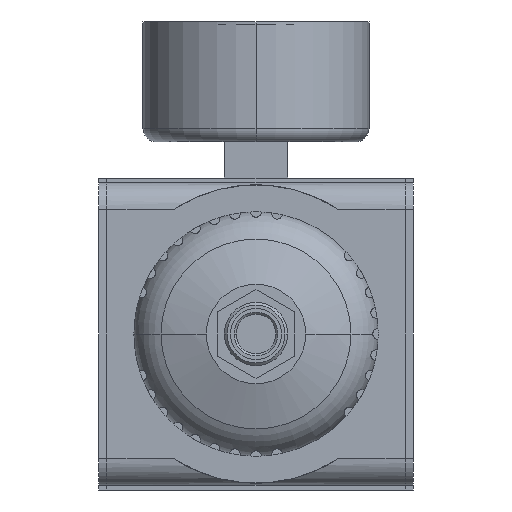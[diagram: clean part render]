
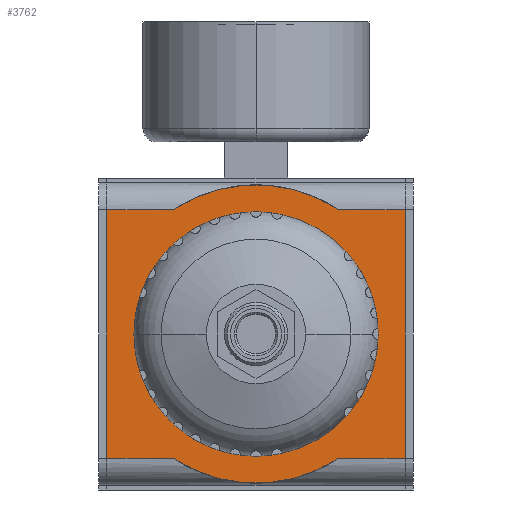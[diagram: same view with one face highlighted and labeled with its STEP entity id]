
A CAD part, front view. The second image highlights one B-rep face of the part: STEP entity #3762.
In plain terms, the highlighted planar face has unit normal (0, -1, 0).
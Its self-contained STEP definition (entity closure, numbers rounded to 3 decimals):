
#65=DIRECTION('',(0.,0.,-1.));
#66=VECTOR('',#65,55.);
#67=CARTESIAN_POINT('',(-33.,0.,27.5));
#68=LINE('',#67,#66);
#339=DIRECTION('',(0.,0.,-1.));
#340=VECTOR('',#339,55.);
#341=CARTESIAN_POINT('',(33.,0.,27.5));
#342=LINE('',#341,#340);
#1001=DIRECTION('',(1.,0.,0.));
#1002=VECTOR('',#1001,14.759);
#1003=CARTESIAN_POINT('',(-33.,0.,27.5));
#1004=LINE('',#1003,#1002);
#1005=DIRECTION('',(1.,0.,0.));
#1006=VECTOR('',#1005,14.759);
#1007=CARTESIAN_POINT('',(18.241,0.,27.5));
#1008=LINE('',#1007,#1006);
#1009=DIRECTION('',(1.,0.,0.));
#1010=VECTOR('',#1009,14.759);
#1011=CARTESIAN_POINT('',(-33.,0.,-27.5));
#1012=LINE('',#1011,#1010);
#1034=DIRECTION('',(1.,0.,0.));
#1035=VECTOR('',#1034,14.759);
#1036=CARTESIAN_POINT('',(18.241,0.,-27.5));
#1037=LINE('',#1036,#1035);
#1038=CARTESIAN_POINT('',(0.,0.,0.));
#1039=DIRECTION('',(0.,1.,0.));
#1040=DIRECTION('',(0.553,0.,-0.833));
#1041=AXIS2_PLACEMENT_3D('',#1038,#1039,#1040);
#1051=CARTESIAN_POINT('',(0.,0.,0.));
#1052=DIRECTION('',(0.,1.,0.));
#1053=DIRECTION('',(-0.553,0.,0.833));
#1054=AXIS2_PLACEMENT_3D('',#1051,#1052,#1053);
#2030=CARTESIAN_POINT('',(-33.,0.,27.5));
#2031=VERTEX_POINT('',#2030);
#2032=CARTESIAN_POINT('',(-33.,0.,-27.5));
#2033=VERTEX_POINT('',#2032);
#2062=CARTESIAN_POINT('',(33.,0.,27.5));
#2063=VERTEX_POINT('',#2062);
#2064=CARTESIAN_POINT('',(33.,0.,-27.5));
#2065=VERTEX_POINT('',#2064);
#2088=CARTESIAN_POINT('',(-18.241,0.,27.5));
#2089=VERTEX_POINT('',#2088);
#2090=CARTESIAN_POINT('',(18.241,0.,27.5));
#2091=VERTEX_POINT('',#2090);
#2092=CARTESIAN_POINT('',(-18.241,0.,-27.5));
#2093=VERTEX_POINT('',#2092);
#2094=CARTESIAN_POINT('',(18.241,0.,-27.5));
#2095=VERTEX_POINT('',#2094);
#3743=CARTESIAN_POINT('',(-33.,0.,27.5));
#3744=DIRECTION('',(0.,-1.,0.));
#3745=DIRECTION('',(0.,0.,-1.));
#3746=AXIS2_PLACEMENT_3D('',#3743,#3744,#3745);
#3747=PLANE('',#3746);
#3749=ORIENTED_EDGE('',*,*,#3748,.F.);
#3751=ORIENTED_EDGE('',*,*,#3750,.T.);
#3753=ORIENTED_EDGE('',*,*,#3752,.F.);
#3754=ORIENTED_EDGE('',*,*,#2659,.F.);
#3755=ORIENTED_EDGE('',*,*,#3731,.T.);
#3757=ORIENTED_EDGE('',*,*,#3756,.T.);
#3758=ORIENTED_EDGE('',*,*,#3736,.T.);
#3759=ORIENTED_EDGE('',*,*,#2879,.T.);
#3760=EDGE_LOOP('',(#3749,#3751,#3753,#3754,#3755,#3757,#3758,#3759));
#3761=FACE_OUTER_BOUND('',#3760,.F.);
#3762=ADVANCED_FACE('',(#3761),#3747,.T.);
#1042=CIRCLE('',#1041,33.);
#1055=CIRCLE('',#1054,33.);
#2659=EDGE_CURVE('',#2031,#2033,#68,.T.);
#2879=EDGE_CURVE('',#2063,#2065,#342,.T.);
#3731=EDGE_CURVE('',#2031,#2089,#1004,.T.);
#3736=EDGE_CURVE('',#2091,#2063,#1008,.T.);
#3748=EDGE_CURVE('',#2095,#2065,#1037,.T.);
#3750=EDGE_CURVE('',#2095,#2093,#1042,.T.);
#3752=EDGE_CURVE('',#2033,#2093,#1012,.T.);
#3756=EDGE_CURVE('',#2089,#2091,#1055,.T.);
